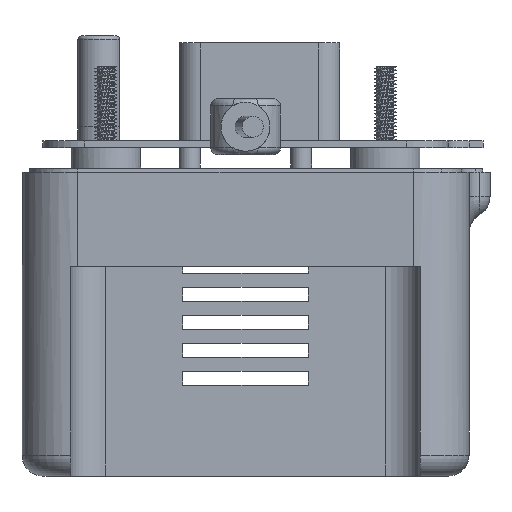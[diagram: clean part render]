
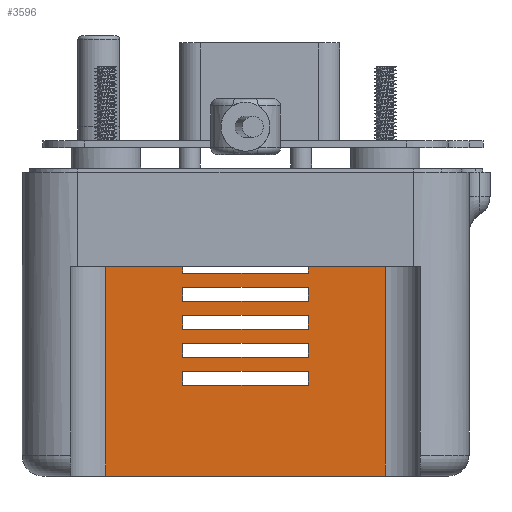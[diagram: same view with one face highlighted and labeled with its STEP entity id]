
A CAD part, left-side view. The second image highlights one B-rep face of the part: STEP entity #3596.
In plain terms, the highlighted planar face has unit normal (-1, 0, 0).
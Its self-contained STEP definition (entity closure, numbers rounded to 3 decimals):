
#3596=ADVANCED_FACE('',(#4962,#4963,#4964,#4965,#4966),#4389,.F.);
#4389=PLANE('',#20624);
#4962=FACE_BOUND('',#5692,.T.);
#4963=FACE_BOUND('',#5693,.T.);
#4964=FACE_BOUND('',#5694,.T.);
#4965=FACE_BOUND('',#5695,.T.);
#4966=FACE_BOUND('',#5696,.T.);
#5692=EDGE_LOOP('',(#9360,#9361,#9362,#9363));
#5693=EDGE_LOOP('',(#9364,#9365,#9366,#9367));
#5694=EDGE_LOOP('',(#9368,#9369,#9370,#9371));
#5695=EDGE_LOOP('',(#9372,#9373,#9374,#9375));
#5696=EDGE_LOOP('',(#9376,#9377,#9378,#9379,#9380,#9381,#9382,#9383));
#9360=ORIENTED_EDGE('',*,*,#14959,.F.);
#9361=ORIENTED_EDGE('',*,*,#14960,.F.);
#9362=ORIENTED_EDGE('',*,*,#14961,.F.);
#9363=ORIENTED_EDGE('',*,*,#14962,.F.);
#9364=ORIENTED_EDGE('',*,*,#14963,.F.);
#9365=ORIENTED_EDGE('',*,*,#14964,.F.);
#9366=ORIENTED_EDGE('',*,*,#14965,.F.);
#9367=ORIENTED_EDGE('',*,*,#14966,.F.);
#9368=ORIENTED_EDGE('',*,*,#14967,.F.);
#9369=ORIENTED_EDGE('',*,*,#14968,.F.);
#9370=ORIENTED_EDGE('',*,*,#14969,.F.);
#9371=ORIENTED_EDGE('',*,*,#14970,.F.);
#9372=ORIENTED_EDGE('',*,*,#14971,.F.);
#9373=ORIENTED_EDGE('',*,*,#14972,.F.);
#9374=ORIENTED_EDGE('',*,*,#14973,.F.);
#9375=ORIENTED_EDGE('',*,*,#14974,.F.);
#9376=ORIENTED_EDGE('',*,*,#14975,.F.);
#9377=ORIENTED_EDGE('',*,*,#14976,.F.);
#9378=ORIENTED_EDGE('',*,*,#14977,.F.);
#9379=ORIENTED_EDGE('',*,*,#14978,.T.);
#9380=ORIENTED_EDGE('',*,*,#14979,.T.);
#9381=ORIENTED_EDGE('',*,*,#14797,.F.);
#9382=ORIENTED_EDGE('',*,*,#14980,.T.);
#9383=ORIENTED_EDGE('',*,*,#14981,.T.);
#12736=VERTEX_POINT('',#63118);
#12737=VERTEX_POINT('',#63120);
#12873=VERTEX_POINT('',#63532);
#12874=VERTEX_POINT('',#63533);
#12875=VERTEX_POINT('',#63535);
#12876=VERTEX_POINT('',#63537);
#12877=VERTEX_POINT('',#63540);
#12878=VERTEX_POINT('',#63541);
#12879=VERTEX_POINT('',#63543);
#12880=VERTEX_POINT('',#63545);
#12881=VERTEX_POINT('',#63548);
#12882=VERTEX_POINT('',#63549);
#12883=VERTEX_POINT('',#63551);
#12884=VERTEX_POINT('',#63553);
#12885=VERTEX_POINT('',#63556);
#12886=VERTEX_POINT('',#63557);
#12887=VERTEX_POINT('',#63559);
#12888=VERTEX_POINT('',#63561);
#12889=VERTEX_POINT('',#63564);
#12890=VERTEX_POINT('',#63565);
#12891=VERTEX_POINT('',#63567);
#12892=VERTEX_POINT('',#63569);
#12893=VERTEX_POINT('',#63571);
#12894=VERTEX_POINT('',#63574);
#14797=EDGE_CURVE('',#12736,#12737,#16827,.T.);
#14959=EDGE_CURVE('',#12873,#12874,#16952,.T.);
#14960=EDGE_CURVE('',#12875,#12873,#16953,.T.);
#14961=EDGE_CURVE('',#12876,#12875,#16954,.T.);
#14962=EDGE_CURVE('',#12874,#12876,#16955,.T.);
#14963=EDGE_CURVE('',#12877,#12878,#16956,.T.);
#14964=EDGE_CURVE('',#12879,#12877,#16957,.T.);
#14965=EDGE_CURVE('',#12880,#12879,#16958,.T.);
#14966=EDGE_CURVE('',#12878,#12880,#16959,.T.);
#14967=EDGE_CURVE('',#12881,#12882,#16960,.T.);
#14968=EDGE_CURVE('',#12883,#12881,#16961,.T.);
#14969=EDGE_CURVE('',#12884,#12883,#16962,.T.);
#14970=EDGE_CURVE('',#12882,#12884,#16963,.T.);
#14971=EDGE_CURVE('',#12885,#12886,#16964,.T.);
#14972=EDGE_CURVE('',#12887,#12885,#16965,.T.);
#14973=EDGE_CURVE('',#12888,#12887,#16966,.T.);
#14974=EDGE_CURVE('',#12886,#12888,#16967,.T.);
#14975=EDGE_CURVE('',#12889,#12890,#16968,.T.);
#14976=EDGE_CURVE('',#12891,#12889,#16969,.T.);
#14977=EDGE_CURVE('',#12892,#12891,#16970,.T.);
#14978=EDGE_CURVE('',#12892,#12893,#16971,.T.);
#14979=EDGE_CURVE('',#12893,#12737,#16972,.T.);
#14980=EDGE_CURVE('',#12736,#12894,#16973,.T.);
#14981=EDGE_CURVE('',#12894,#12890,#16974,.T.);
#16827=LINE('',#63119,#18609);
#16952=LINE('',#63531,#18734);
#16953=LINE('',#63534,#18735);
#16954=LINE('',#63536,#18736);
#16955=LINE('',#63538,#18737);
#16956=LINE('',#63539,#18738);
#16957=LINE('',#63542,#18739);
#16958=LINE('',#63544,#18740);
#16959=LINE('',#63546,#18741);
#16960=LINE('',#63547,#18742);
#16961=LINE('',#63550,#18743);
#16962=LINE('',#63552,#18744);
#16963=LINE('',#63554,#18745);
#16964=LINE('',#63555,#18746);
#16965=LINE('',#63558,#18747);
#16966=LINE('',#63560,#18748);
#16967=LINE('',#63562,#18749);
#16968=LINE('',#63563,#18750);
#16969=LINE('',#63566,#18751);
#16970=LINE('',#63568,#18752);
#16971=LINE('',#63570,#18753);
#16972=LINE('',#63572,#18754);
#16973=LINE('',#63573,#18755);
#16974=LINE('',#63575,#18756);
#18609=VECTOR('',#23744,1.);
#18734=VECTOR('',#23967,1.);
#18735=VECTOR('',#23968,1.);
#18736=VECTOR('',#23969,1.);
#18737=VECTOR('',#23970,1.);
#18738=VECTOR('',#23971,1.);
#18739=VECTOR('',#23972,1.);
#18740=VECTOR('',#23973,1.);
#18741=VECTOR('',#23974,1.);
#18742=VECTOR('',#23975,1.);
#18743=VECTOR('',#23976,1.);
#18744=VECTOR('',#23977,1.);
#18745=VECTOR('',#23978,1.);
#18746=VECTOR('',#23979,1.);
#18747=VECTOR('',#23980,1.);
#18748=VECTOR('',#23981,1.);
#18749=VECTOR('',#23982,1.);
#18750=VECTOR('',#23983,1.);
#18751=VECTOR('',#23984,1.);
#18752=VECTOR('',#23985,1.);
#18753=VECTOR('',#23986,1.);
#18754=VECTOR('',#23987,1.);
#18755=VECTOR('',#23988,1.);
#18756=VECTOR('',#23989,1.);
#20624=AXIS2_PLACEMENT_3D('',#63576,#23990,#23991);
#23744=DIRECTION('',(0.,1.,0.));
#23967=DIRECTION('',(0.,0.,-1.));
#23968=DIRECTION('',(0.,1.,0.));
#23969=DIRECTION('',(0.,0.,1.));
#23970=DIRECTION('',(0.,-1.,0.));
#23971=DIRECTION('',(0.,1.,0.));
#23972=DIRECTION('',(0.,0.,1.));
#23973=DIRECTION('',(0.,-1.,0.));
#23974=DIRECTION('',(0.,0.,-1.));
#23975=DIRECTION('',(0.,1.,0.));
#23976=DIRECTION('',(0.,0.,1.));
#23977=DIRECTION('',(0.,-1.,0.));
#23978=DIRECTION('',(0.,0.,-1.));
#23979=DIRECTION('',(0.,1.,0.));
#23980=DIRECTION('',(0.,0.,1.));
#23981=DIRECTION('',(0.,-1.,0.));
#23982=DIRECTION('',(0.,0.,-1.));
#23983=DIRECTION('',(0.,0.,1.));
#23984=DIRECTION('',(0.,-1.,0.));
#23985=DIRECTION('',(0.,0.,-1.));
#23986=DIRECTION('',(0.,1.,0.));
#23987=DIRECTION('',(0.,0.,-1.));
#23988=DIRECTION('',(0.,0.,1.));
#23989=DIRECTION('',(0.,1.,0.));
#23990=DIRECTION('',(1.,0.,0.));
#23991=DIRECTION('',(0.,1.,0.));
#63118=CARTESIAN_POINT('',(-15.,-20.,-17.));
#63119=CARTESIAN_POINT('',(-15.,-32.,-17.));
#63120=CARTESIAN_POINT('',(-15.,20.,-17.));
#63531=CARTESIAN_POINT('',(-15.,9.,-6.));
#63532=CARTESIAN_POINT('',(-15.,9.,10.));
#63533=CARTESIAN_POINT('',(-15.,9.,8.));
#63534=CARTESIAN_POINT('',(-15.,-25.,10.));
#63535=CARTESIAN_POINT('',(-15.,-9.,10.));
#63536=CARTESIAN_POINT('',(-15.,-9.,-6.));
#63537=CARTESIAN_POINT('',(-15.,-9.,8.));
#63538=CARTESIAN_POINT('',(-15.,-25.,8.));
#63539=CARTESIAN_POINT('',(-15.,-25.,2.));
#63540=CARTESIAN_POINT('',(-15.,-9.,2.));
#63541=CARTESIAN_POINT('',(-15.,9.,2.));
#63542=CARTESIAN_POINT('',(-15.,-9.,-6.));
#63543=CARTESIAN_POINT('',(-15.,-9.,0.));
#63544=CARTESIAN_POINT('',(-15.,-25.,0.));
#63545=CARTESIAN_POINT('',(-15.,9.,0.));
#63546=CARTESIAN_POINT('',(-15.,9.,-6.));
#63547=CARTESIAN_POINT('',(-15.,-25.,-2.));
#63548=CARTESIAN_POINT('',(-15.,-9.,-2.));
#63549=CARTESIAN_POINT('',(-15.,9.,-2.));
#63550=CARTESIAN_POINT('',(-15.,-9.,-6.));
#63551=CARTESIAN_POINT('',(-15.,-9.,-4.));
#63552=CARTESIAN_POINT('',(-15.,-25.,-4.));
#63553=CARTESIAN_POINT('',(-15.,9.,-4.));
#63554=CARTESIAN_POINT('',(-15.,9.,-6.));
#63555=CARTESIAN_POINT('',(-15.,-25.,6.));
#63556=CARTESIAN_POINT('',(-15.,-9.,6.));
#63557=CARTESIAN_POINT('',(-15.,9.,6.));
#63558=CARTESIAN_POINT('',(-15.,-9.,-6.));
#63559=CARTESIAN_POINT('',(-15.,-9.,4.));
#63560=CARTESIAN_POINT('',(-15.,-25.,4.));
#63561=CARTESIAN_POINT('',(-15.,9.,4.));
#63562=CARTESIAN_POINT('',(-15.,9.,-6.));
#63563=CARTESIAN_POINT('',(-15.,-9.,-6.));
#63564=CARTESIAN_POINT('',(-15.,-9.,12.));
#63565=CARTESIAN_POINT('',(-15.,-9.,13.));
#63566=CARTESIAN_POINT('',(-15.,-25.,12.));
#63567=CARTESIAN_POINT('',(-15.,9.,12.));
#63568=CARTESIAN_POINT('',(-15.,9.,-6.));
#63569=CARTESIAN_POINT('',(-15.,9.,13.));
#63570=CARTESIAN_POINT('',(-15.,-32.,13.));
#63571=CARTESIAN_POINT('',(-15.,20.,13.));
#63572=CARTESIAN_POINT('',(-15.,20.,-17.));
#63573=CARTESIAN_POINT('',(-15.,-20.,13.));
#63574=CARTESIAN_POINT('',(-15.,-20.,13.));
#63575=CARTESIAN_POINT('',(-15.,-32.,13.));
#63576=CARTESIAN_POINT('',(-15.,-25.,-6.));
